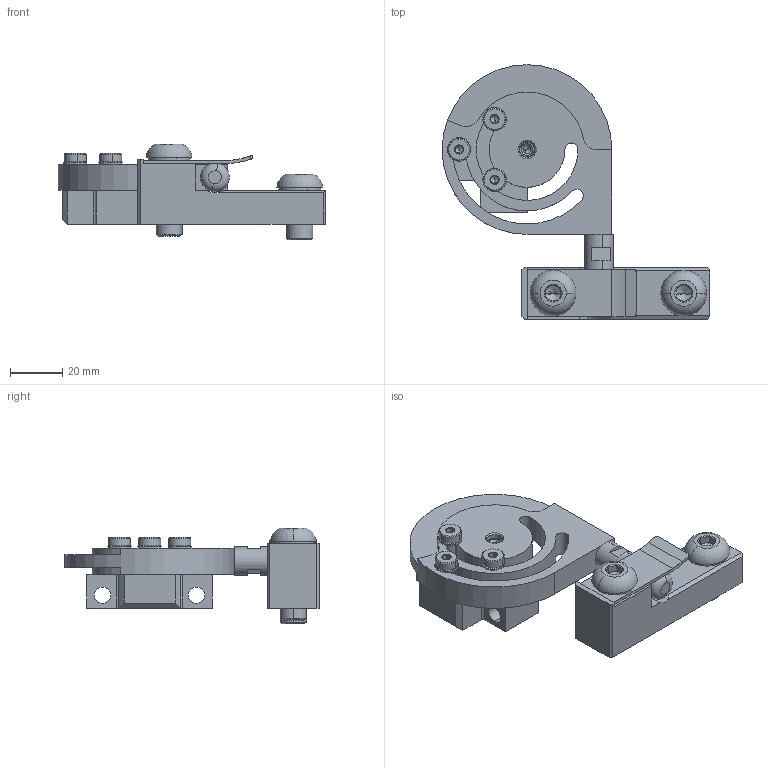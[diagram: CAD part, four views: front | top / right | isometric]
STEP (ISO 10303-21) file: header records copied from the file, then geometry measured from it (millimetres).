
FILE_DESCRIPTION (( 'STEP AP214' ), '1' );
FILE_NAME ('AL50-S.STEP', '2020-01-21T08:37:05', ( '' ), ( '' ), 'SwSTEP 2.0', 'SolidWorks 2019', '' );
FILE_SCHEMA (( 'AUTOMOTIVE_DESIGN' ));
Length unit declared in the file: millimetre
Products named in the file (13): spina_cilindrica_6x20_m4_din7979_1_161.STEP; perno_aggancio_leva_cpr50_63_06116.STEP; bandella_reazione_06235.STEP; vite_tcbei_m10x30_iso7380_1_111.STEP; Disco_posizionatore_09219.STEP; AL50-S; AL63-S.STEP; rondella_schnorr_ m5_1_279.STEP; Tassello_leva_sx_09222_sx; rondella_schnorr_m10_1_260.STEP; supporto_06233.STEP; vite_tcei_tr_m5x16_din7984_1_066.STEP; vite_tcbei_m10x20_iso7380_1_110.STEP
Assembly tree (17 placements, depth 3):
  AL50-S
    AL63-S.STEP
      Disco_posizionatore_09219.STEP
      perno_aggancio_leva_cpr50_63_06116.STEP
      supporto_06233.STEP
      bandella_reazione_06235.STEP
      vite_tcbei_m10x30_iso7380_1_111.STEP
      rondella_schnorr_m10_1_260.STEP  x2
      vite_tcbei_m10x20_iso7380_1_110.STEP
      spina_cilindrica_6x20_m4_din7979_1_161.STEP
      rondella_schnorr_ m5_1_279.STEP  x3
      vite_tcei_tr_m5x16_din7984_1_066.STEP  x3
    Tassello_leva_sx_09222_sx
Bounding box: 102.5 x 97.5 x 36.7 mm (x, y, z)
Volume: 67031.2 mm3; surface area: 32046.6 mm2
Topology: 16 solids, 16 shells, 351 faces, 820 edges, 490 vertices
Faces by surface type: plane 138, cone 98, cylinder 97, torus 16, sphere 2
Entity records: 8656 total; most frequent: CARTESIAN_POINT 1708, DIRECTION 1434, ORIENTED_EDGE 1246, EDGE_CURVE 623, AXIS2_PLACEMENT_3D 547, VERTEX_POINT 387, VECTOR 340, LINE 340
